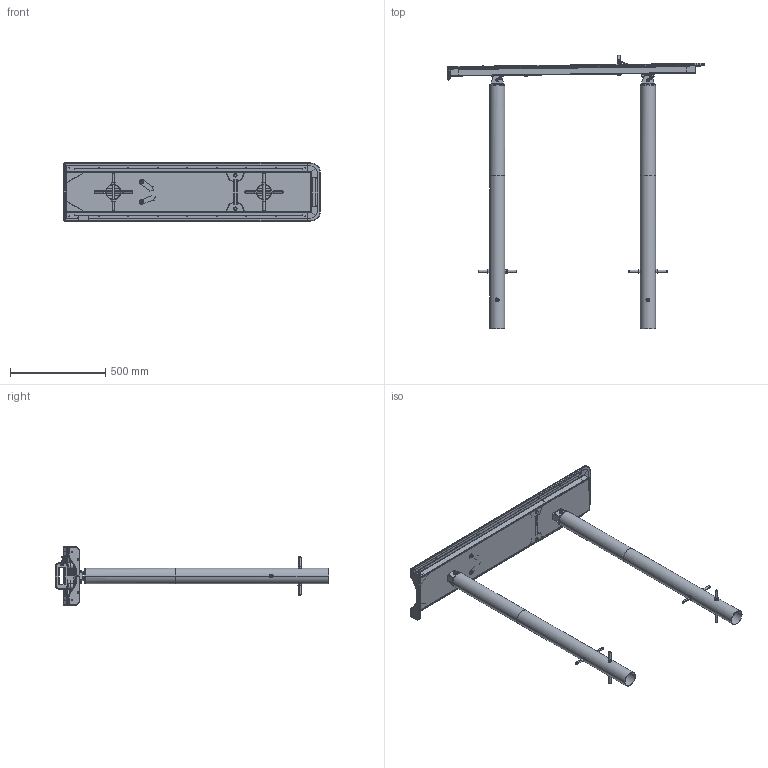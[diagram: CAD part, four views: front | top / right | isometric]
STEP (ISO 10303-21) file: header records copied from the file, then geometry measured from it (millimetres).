
FILE_DESCRIPTION (( 'STEP AP214' ), '1' );
FILE_NAME ('570.203.010.012 - Channel CA.STEP', '2021-03-25T11:12:56', ( '' ), ( '' ), 'SwSTEP 2.0', 'SolidWorks 2018', '' );
FILE_SCHEMA (( 'AUTOMOTIVE_DESIGN' ));
Length unit declared in the file: millimetre
Products named in the file (1): 570.203.010.012 - Channel CA
Bounding box: 1348.24 x 1432.09 x 305 mm (x, y, z)
Surface area: 2767651.6 mm2 (no closed solid volume)
Topology: 0 solids, 165 shells, 881 faces, 2995 edges, 2150 vertices
Faces by surface type: plane 322, cylinder 294, torus 112, bspline 76, cone 49, sphere 28
Entity records: 45743 total; most frequent: CARTESIAN_POINT 11198, DIRECTION 5469, ORIENTED_EDGE 4209, EDGE_CURVE 2969, AXIS2_PLACEMENT_3D 2149, VERTEX_POINT 2142, CIRCLE 1343, LINE 1171
